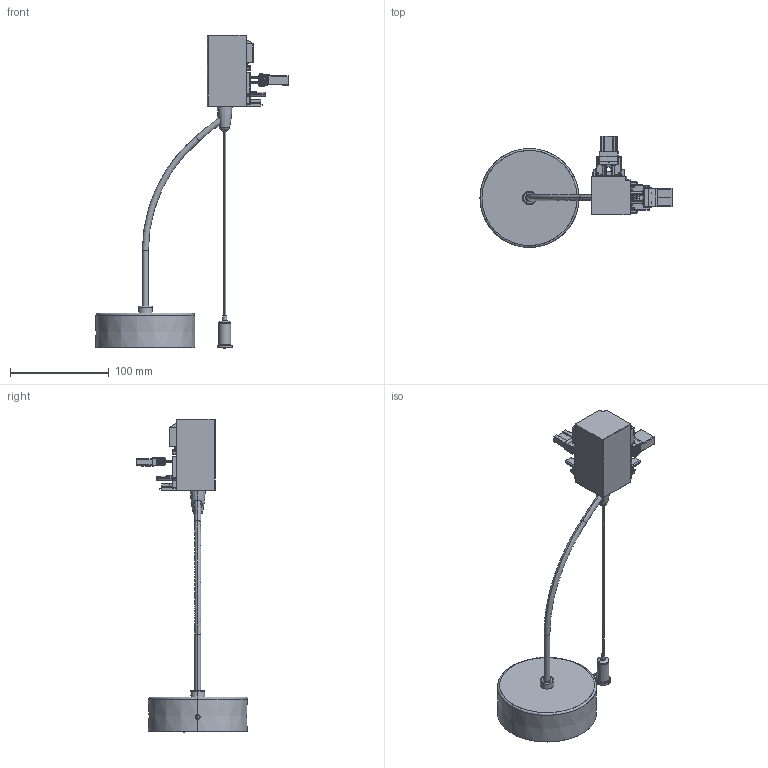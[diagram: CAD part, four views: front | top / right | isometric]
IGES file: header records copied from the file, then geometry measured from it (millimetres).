
Start section: SolidWorks IGES file using analytic representation for surfaces
Global section: file name: C:\Users\extension46\Desktop\3D-WEB\Invisible\Modular\L90D-AC-wire.IGS; native system: SolidWorks 2023; preprocessor: SolidWorks 2023; author: y.wang; date: 240627.085628; units: millimetre
Bounding box: 194 x 111.7 x 316.99 mm (x, y, z)
Surface area: 91225.1 mm2 (no closed solid volume)
Topology: 0 solids, 0 shells, 1919 faces, 16729 edges, 16599 vertices
Faces by surface type: bspline 963, revolution 956
